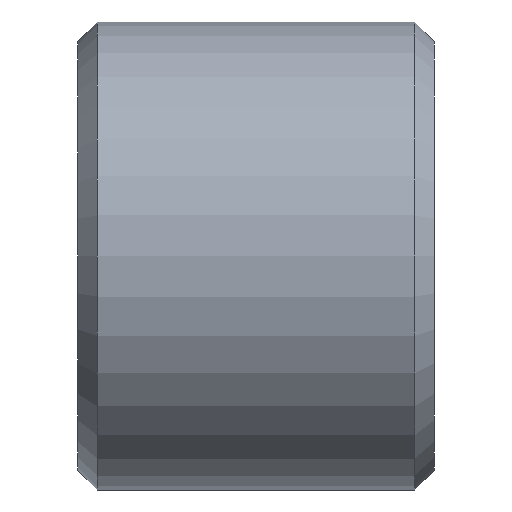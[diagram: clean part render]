
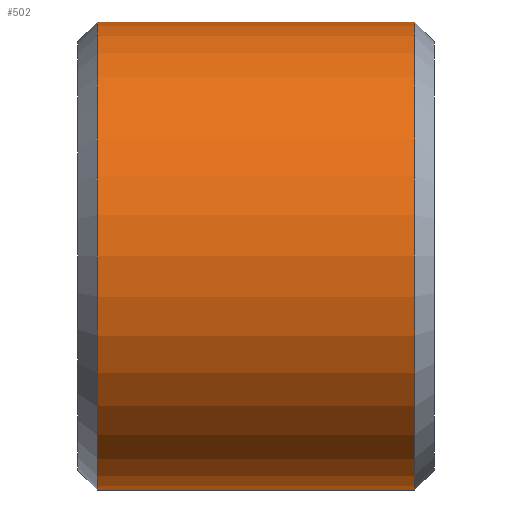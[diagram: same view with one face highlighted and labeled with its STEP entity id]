
A CAD part, left-side view. The second image highlights one B-rep face of the part: STEP entity #502.
In plain terms, the highlighted cylindrical face has radius 5.9 mm (diameter 11.8 mm), a partial arc.
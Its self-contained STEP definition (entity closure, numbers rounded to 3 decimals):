
#29 = VERTEX_POINT ( 'NONE', #286 ) ;
#42 = AXIS2_PLACEMENT_3D ( 'NONE', #534, #493, #343 ) ;
#70 = VECTOR ( 'NONE', #93, 1000. ) ;
#93 = DIRECTION ( 'NONE',  ( 0., -1., 0. ) ) ;
#98 = AXIS2_PLACEMENT_3D ( 'NONE', #589, #325, #576 ) ;
#106 = CARTESIAN_POINT ( 'NONE',  ( 0., 0.5, -5.9 ) ) ;
#109 = LINE ( 'NONE', #301, #226 ) ;
#137 = EDGE_LOOP ( 'NONE', ( #388, #550, #422, #380 ) ) ;
#226 = VECTOR ( 'NONE', #296, 1000. ) ;
#250 = CIRCLE ( 'NONE', #420, 5.9 ) ;
#271 = LINE ( 'NONE', #391, #70 ) ;
#279 = EDGE_CURVE ( 'NONE', #329, #315, #250, .T. ) ;
#286 = CARTESIAN_POINT ( 'NONE',  ( 0., 0.5, 5.9 ) ) ;
#296 = DIRECTION ( 'NONE',  ( 0., -1., 0. ) ) ;
#301 = CARTESIAN_POINT ( 'NONE',  ( 0., 7.236, 5.9 ) ) ;
#315 = VERTEX_POINT ( 'NONE', #508 ) ;
#325 = DIRECTION ( 'NONE',  ( 0., 1., 0. ) ) ;
#329 = VERTEX_POINT ( 'NONE', #598 ) ;
#343 = DIRECTION ( 'NONE',  ( 0., 0., -1. ) ) ;
#344 = CYLINDRICAL_SURFACE ( 'NONE', #42, 5.9 ) ;
#380 = ORIENTED_EDGE ( 'NONE', *, *, #555, .T. ) ;
#388 = ORIENTED_EDGE ( 'NONE', *, *, #573, .F. ) ;
#391 = CARTESIAN_POINT ( 'NONE',  ( 0., 7.236, -5.9 ) ) ;
#420 = AXIS2_PLACEMENT_3D ( 'NONE', #515, #524, #606 ) ;
#422 = ORIENTED_EDGE ( 'NONE', *, *, #512, .T. ) ;
#493 = DIRECTION ( 'NONE',  ( 0., -1., 0. ) ) ;
#502 = ADVANCED_FACE ( 'NONE', ( #620 ), #344, .T. ) ;
#508 = CARTESIAN_POINT ( 'NONE',  ( 0., 8.496, -5.9 ) ) ;
#512 = EDGE_CURVE ( 'NONE', #315, #537, #271, .T. ) ;
#515 = CARTESIAN_POINT ( 'NONE',  ( 0., 8.496, 0. ) ) ;
#524 = DIRECTION ( 'NONE',  ( 0., -1., 0. ) ) ;
#534 = CARTESIAN_POINT ( 'NONE',  ( 0., 7.236, 0. ) ) ;
#537 = VERTEX_POINT ( 'NONE', #106 ) ;
#550 = ORIENTED_EDGE ( 'NONE', *, *, #279, .T. ) ;
#555 = EDGE_CURVE ( 'NONE', #537, #29, #608, .T. ) ;
#573 = EDGE_CURVE ( 'NONE', #329, #29, #109, .T. ) ;
#576 = DIRECTION ( 'NONE',  ( 0., 0., 1. ) ) ;
#589 = CARTESIAN_POINT ( 'NONE',  ( 0., 0.5, 0. ) ) ;
#598 = CARTESIAN_POINT ( 'NONE',  ( 0., 8.496, 5.9 ) ) ;
#606 = DIRECTION ( 'NONE',  ( 0., 0., 1. ) ) ;
#608 = CIRCLE ( 'NONE', #98, 5.9 ) ;
#620 = FACE_OUTER_BOUND ( 'NONE', #137, .T. ) ;
